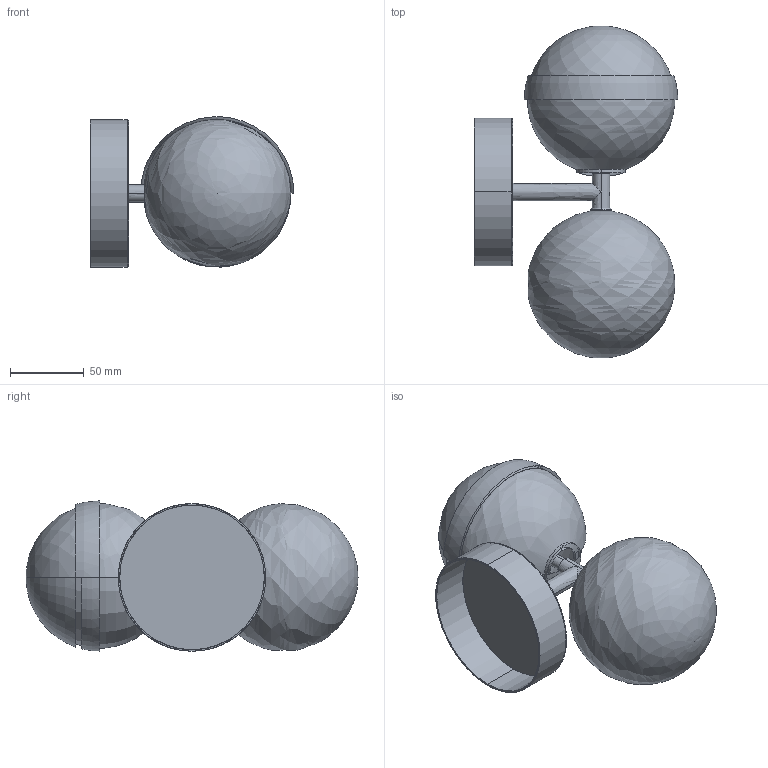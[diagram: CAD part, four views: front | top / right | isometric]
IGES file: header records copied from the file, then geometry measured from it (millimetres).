
Start section: SolidWorks IGES file using analytic representation for surfaces
Global section: file name: C:\Users\Agus\Desktop\PROPUESTAS SEPT.2019\pesa\aplique\A1280.IGS; native system: SolidWorks 2018; preprocessor: SolidWorks 2018; author: Agus; date: 191011.161954; units: millimetre
Bounding box: 138 x 225.04 x 101.93 mm (x, y, z)
Surface area: 162431.1 mm2 (no closed solid volume)
Topology: 0 solids, 0 shells, 41 faces, 688 edges, 684 vertices
Faces by surface type: revolution 27, bspline 14
